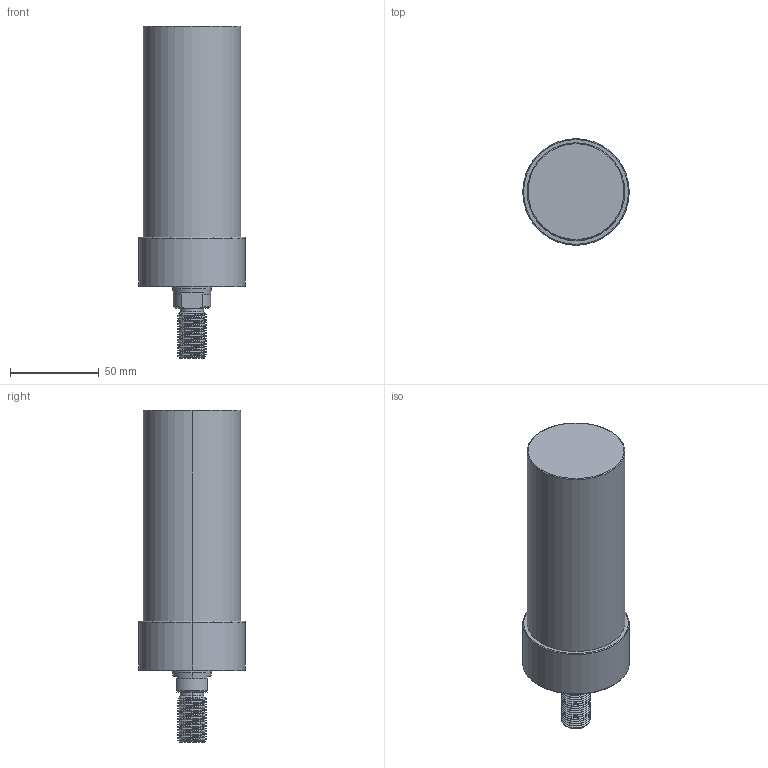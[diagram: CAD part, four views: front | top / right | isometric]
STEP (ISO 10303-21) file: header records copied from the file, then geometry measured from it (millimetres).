
FILE_DESCRIPTION (( 'STEP AP203' ), '1' );
FILE_NAME ('CLLU-055GT-090.STEP', '2020-01-16T01:49:39', ( '' ), ( '' ), 'SwSTEP 2.0', 'SolidWorks 2015', '' );
FILE_SCHEMA (( 'CONFIG_CONTROL_DESIGN' ));
Length unit declared in the file: millimetre
Products named in the file (1): CLLU-055GT-090
Bounding box: 60 x 60 x 187 mm (x, y, z)
Volume: 369138.3 mm3; surface area: 35559 mm2
Topology: 1 solids, 1 shells, 102 faces, 254 edges, 155 vertices
Faces by surface type: cylinder 56, cone 26, plane 12, torus 6, bspline 2
Entity records: 4904 total; most frequent: CARTESIAN_POINT 2613, ORIENTED_EDGE 492, DIRECTION 445, EDGE_CURVE 246, AXIS2_PLACEMENT_3D 178, VERTEX_POINT 155, EDGE_LOOP 111, ADVANCED_FACE 102
